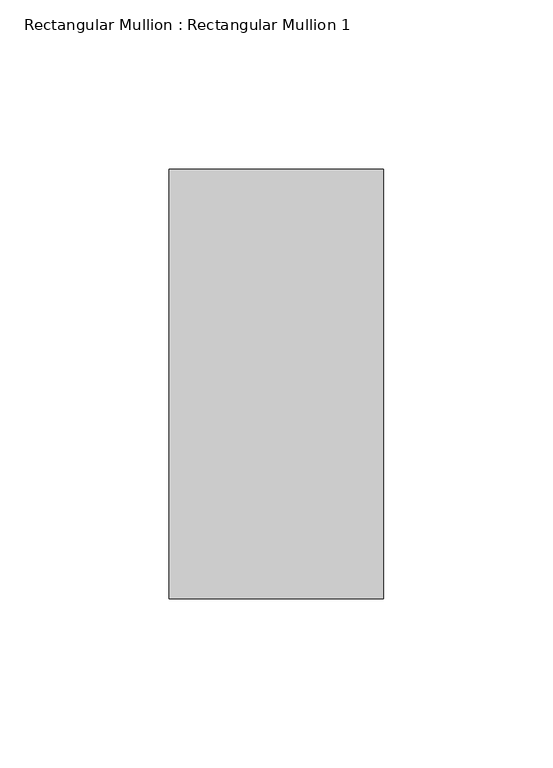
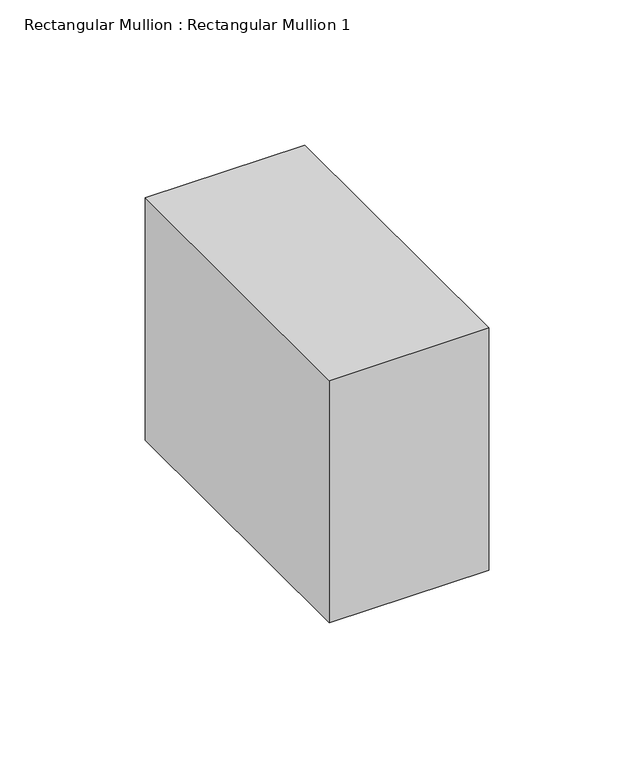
"""IFC4 building model written with IfcOpenShell, lengths in millimetres: member geometry, Rectangular Mullion : Rectangular Mullion 1."""

from ifc_helpers import new_model, si_unit, frame, origin, place, context, project, spatial, polyline, outline, extrude, source, transform, mapped, element, save


def rectangular_mullion_rectangular_mullion_1_e7cd13e6(model_context):
    return source(origin(), model_context, "Body", "SweptSolid", [
        extrude(outline(polyline([(0.0, 63.5), (0.0, -63.5), (-63.5, -63.5), (-63.5, 63.5), (0.0, 63.5)])), frame((0.0, 0.0, -101.9279646), z_axis=(0.0, 0.0, 1.0), x_axis=(1.0, 0.0, 0.0)), (0.0, 0.0, 1.0), 101.9279646),
    ])


if __name__ == "__main__":
    model = new_model("IFC4")
    model_context = context("Model", 3, world=origin())
    ifc_project = project(units=[si_unit("LENGTHUNIT", "METRE", prefix="MILLI")], contexts=[model_context])
    site = spatial("IfcSite", under=ifc_project)
    building = spatial("IfcBuilding", under=site)
    placement = place(None, origin())
    rectangular_mullion_rectangular_mullion_1_shape = rectangular_mullion_rectangular_mullion_1_e7cd13e6(model_context)
    element("IfcMember", 1, ObjectType="Rectangular Mullion : Rectangular Mullion 1", at=placement, inside=building, context=model_context, shape_type="MappedRepresentation", body=[
        mapped(rectangular_mullion_rectangular_mullion_1_shape, transform((0.0, 0.0, 0.0), x_axis=(1.0, 0.0, 0.0), y_axis=(0.0, 1.0, 0.0), z_axis=(0.0, 0.0, 1.0))),
    ])
    save(model, "model.ifc")
